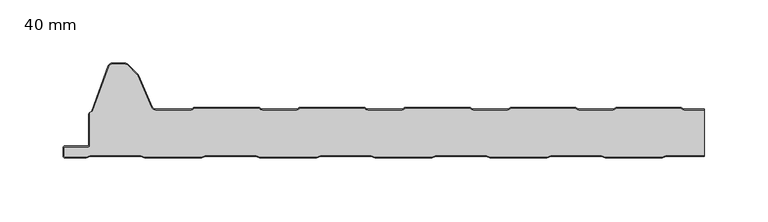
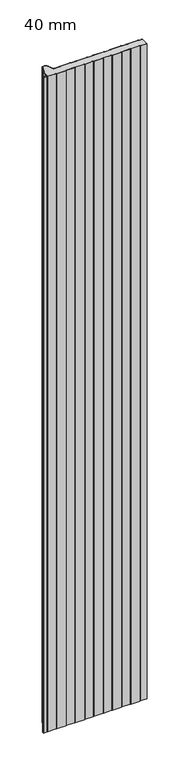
"""IFC4 building model written with IfcOpenShell, lengths in millimetres: plate geometry, HIANSA PANEL - H20.F01.004-PANELES DE CUBIERTA SIN TAPAJUNTA - EASY CUB 3GR - Panel de Muro Cortina : 40 mm."""

from ifc_helpers import new_model, si_unit, point, frame_2d, origin, origin_with_axes, place, context, project, spatial, polyline, circle_curve, trimmed, segment, composite_curve, outline, extrude, source, transform, mapped, element, save


def plate_40_mm_dbaeaa5f(model_context):
    return source(origin(), model_context, "Body", "SweptSolid", [
        extrude(outline(polyline([(-236.0046623, 15.4267187), (-236.479984, 16.25), (-236.479984, 34.6399643), (-236.0046623, 35.4632456), (-236.0046623, 15.4267187)])), origin_with_axes(), (0.0, 0.0, 1.0), 3390.8509027),
        extrude(outline(composite_curve([segment(trimmed(circle_curve(frame_2d((-236.9813919, 9.7640482)), 0.998858), [point((-235.982535, 9.7655207))], [point((-236.9813919, 8.7651902))], False, "CARTESIAN"), True, "CONTINUOUS"), segment(polyline([(-236.9813919, 8.7651902), (-255.4768579, 8.7651905)]), True, "CONTINUOUS"), segment(trimmed(circle_curve(frame_2d((-255.4798401, 8.2649415)), 0.5002578), [point((-255.4768579, 8.7651905))], [point((-255.9800979, 8.2649415))], True, "CARTESIAN"), True, "CONTINUOUS"), segment(polyline([(-255.9800979, 8.2649415), (-255.9800979, 1.0000206)]), True, "CONTINUOUS"), segment(trimmed(circle_curve(frame_2d((-255.4800361, 1.0000206)), 0.5000618), [point((-255.9800979, 1.0000206))], [point((-255.4800361, 0.4999588))], True, "CARTESIAN"), True, "CONTINUOUS"), segment(polyline([(-255.4800361, 0.4999588), (-238.321247, 0.4999588), (-235.3211235, 1.5), (-195.1588459, 1.5), (-192.1588459, 0.5), (-147.3211235, 0.5), (-144.3211235, 1.5), (-104.1588459, 1.5), (-101.1588459, 0.5), (-56.3211235, 0.5), (-53.3211235, 1.5), (-13.1588459, 1.5), (-10.1588459, 0.5), (34.6788765, 0.5), (37.6788765, 1.5), (77.8411541, 1.5), (80.8411541, 0.5), (125.6788765, 0.5), (128.6788765, 1.5), (168.8411541, 1.5), (171.8411541, 0.5), (216.6788765, 0.5), (219.6788765, 1.5), (249.9999998, 1.5), (249.9999998, 1.0), (219.7600153, 1.0), (216.7600153, 0.0), (171.7600153, 0.0), (168.7600153, 1.0), (128.7600153, 1.0), (125.7600153, 0.0), (80.7600153, 0.0), (77.7600153, 1.0), (37.7600153, 1.0), (34.7600153, 0.0), (-10.2399847, 0.0), (-13.2399847, 1.0), (-53.2399847, 1.0), (-56.2399847, 0.0), (-101.2399847, 0.0), (-104.2399847, 1.0), (-144.2399847, 1.0), (-147.2399847, 0.0), (-192.2399847, 0.0), (-195.2399847, 1.0), (-235.2399847, 1.0), (-238.2399847, 0.0), (-255.4799847, 0.0)]), True, "CONTINUOUS"), segment(trimmed(circle_curve(frame_2d((-255.4799847, 1.0)), 1.0), [point((-255.4799847, 0.0))], [point((-256.4799847, 1.0))], False, "CARTESIAN"), True, "CONTINUOUS"), segment(polyline([(-256.4799847, 1.0), (-256.4799847, 8.262651)]), True, "CONTINUOUS"), segment(trimmed(circle_curve(frame_2d((-255.4799847, 8.262651)), 1.0), [point((-256.4799847, 8.262651))], [point((-255.4799847, 9.262651))], False, "CARTESIAN"), True, "CONTINUOUS"), segment(polyline([(-255.4799847, 9.262651), (-236.9830391, 9.262651)]), True, "CONTINUOUS"), segment(trimmed(circle_curve(frame_2d((-236.979984, 9.7626416)), 0.5), [point((-236.9830391, 9.262651))], [point((-236.479984, 9.7626416))], True, "CARTESIAN"), True, "CONTINUOUS"), segment(polyline([(-236.479984, 9.7626416), (-236.479984, 16.25), (-235.982535, 15.388393), (-235.982535, 9.7655207)]), True, "CONTINUOUS")], self_intersect=False)), origin_with_axes(), (0.0, 0.0, 1.0), 3390.8509027),
        extrude(outline(composite_curve([segment(polyline([(-234.1370886, 36.794297), (-220.9862023, 72.9260604)]), True, "CONTINUOUS"), segment(trimmed(circle_curve(frame_2d((-218.1671244, 71.9)), 3.0), [point((-220.9862023, 72.9260604))], [point((-218.1671244, 74.9))], False, "CARTESIAN"), True, "CONTINUOUS"), segment(polyline([(-218.1671244, 74.9), (-208.1823564, 74.9)]), True, "CONTINUOUS"), segment(trimmed(circle_curve(frame_2d((-208.1823564, 69.9)), 5.0), [point((-208.1823564, 74.9))], [point((-204.6468225, 73.4355339))], False, "CARTESIAN"), True, "CONTINUOUS"), segment(polyline([(-204.6468225, 73.4355339), (-197.9600416, 66.7487529)]), True, "CONTINUOUS"), segment(trimmed(circle_curve(frame_2d((-201.4955755, 63.213219)), 5.0), [point((-197.9600416, 66.7487529))], [point((-196.9079185, 65.2015359))], False, "CARTESIAN"), True, "CONTINUOUS"), segment(polyline([(-196.9079185, 65.2015359), (-186.1184879, 40.3070099)]), True, "CONTINUOUS"), segment(trimmed(circle_curve(frame_2d((-183.3658937, 41.5)), 3.0), [point((-186.1184879, 40.3070099))], [point((-183.3658937, 38.5))], True, "CARTESIAN"), True, "CONTINUOUS"), segment(polyline([(-183.3658937, 38.5), (-155.5009808, 38.5)]), True, "CONTINUOUS"), segment(trimmed(circle_curve(frame_2d((-155.5009808, 40.5)), 2.0), [point((-155.5009808, 38.5))], [point((-154.270989, 38.9229394))], True, "CARTESIAN"), True, "CONTINUOUS"), segment(polyline([(-154.270989, 38.9229394), (-153.6196411, 39.5404749)]), True, "CONTINUOUS"), segment(trimmed(circle_curve(frame_2d((-152.3441266, 38.0)), 2.0), [point((-153.6196411, 39.5404749))], [point((-152.3441266, 40.0))], False, "CARTESIAN"), True, "CONTINUOUS"), segment(polyline([(-152.3441266, 40.0), (-102.3428932, 40.0)]), True, "CONTINUOUS"), segment(trimmed(circle_curve(frame_2d((-102.3428932, 38.0)), 2.0), [point((-102.3428932, 40.0))], [point((-101.0673787, 39.5404749))], False, "CARTESIAN"), True, "CONTINUOUS"), segment(polyline([(-101.0673787, 39.5404749), (-100.4160308, 38.9229394)]), True, "CONTINUOUS"), segment(trimmed(circle_curve(frame_2d((-99.1860389, 40.5)), 2.0), [point((-100.4160308, 38.9229394))], [point((-99.1860389, 38.5))], True, "CARTESIAN"), True, "CONTINUOUS"), segment(polyline([(-99.1860389, 38.5), (-72.1676475, 38.5)]), True, "CONTINUOUS"), segment(trimmed(circle_curve(frame_2d((-72.1676475, 40.5)), 2.0), [point((-72.1676475, 38.5))], [point((-70.9376556, 38.9229394))], True, "CARTESIAN"), True, "CONTINUOUS"), segment(polyline([(-70.9376556, 38.9229394), (-70.2863077, 39.5404749)]), True, "CONTINUOUS"), segment(trimmed(circle_curve(frame_2d((-69.0107932, 38.0)), 2.0), [point((-70.2863077, 39.5404749))], [point((-69.0107932, 40.0))], False, "CARTESIAN"), True, "CONTINUOUS"), segment(polyline([(-69.0107932, 40.0), (-19.0095599, 40.0)]), True, "CONTINUOUS"), segment(trimmed(circle_curve(frame_2d((-19.0095599, 38.0)), 2.0), [point((-19.0095599, 40.0))], [point((-17.7340454, 39.5404749))], False, "CARTESIAN"), True, "CONTINUOUS"), segment(polyline([(-17.7340454, 39.5404749), (-17.0826975, 38.9229394)]), True, "CONTINUOUS"), segment(trimmed(circle_curve(frame_2d((-15.8527056, 40.5)), 2.0), [point((-17.0826975, 38.9229394))], [point((-15.8527056, 38.5))], True, "CARTESIAN"), True, "CONTINUOUS"), segment(polyline([(-15.8527056, 38.5), (11.1656858, 38.5)]), True, "CONTINUOUS"), segment(trimmed(circle_curve(frame_2d((11.1656858, 40.5)), 2.0), [point((11.1656858, 38.5))], [point((12.3956777, 38.9229394))], True, "CARTESIAN"), True, "CONTINUOUS"), segment(polyline([(12.3956777, 38.9229394), (13.0470256, 39.5404749)]), True, "CONTINUOUS"), segment(trimmed(circle_curve(frame_2d((14.3225401, 38.0)), 2.0), [point((13.0470256, 39.5404749))], [point((14.3225401, 40.0))], False, "CARTESIAN"), True, "CONTINUOUS"), segment(polyline([(14.3225401, 40.0), (64.3237735, 40.0)]), True, "CONTINUOUS"), segment(trimmed(circle_curve(frame_2d((64.3237735, 38.0)), 2.0), [point((64.3237735, 40.0))], [point((65.5992879, 39.5404749))], False, "CARTESIAN"), True, "CONTINUOUS"), segment(polyline([(65.5992879, 39.5404749), (66.2506359, 38.9229394)]), True, "CONTINUOUS"), segment(trimmed(circle_curve(frame_2d((67.4806277, 40.5)), 2.0), [point((66.2506359, 38.9229394))], [point((67.4806277, 38.5))], True, "CARTESIAN"), True, "CONTINUOUS"), segment(polyline([(67.4806277, 38.5), (94.4990192, 38.5)]), True, "CONTINUOUS"), segment(trimmed(circle_curve(frame_2d((94.4990192, 40.5)), 2.0), [point((94.4990192, 38.5))], [point((95.729011, 38.9229394))], True, "CARTESIAN"), True, "CONTINUOUS"), segment(polyline([(95.729011, 38.9229394), (96.3803589, 39.5404749)]), True, "CONTINUOUS"), segment(trimmed(circle_curve(frame_2d((97.6558734, 38.0)), 2.0), [point((96.3803589, 39.5404749))], [point((97.6558734, 40.0))], False, "CARTESIAN"), True, "CONTINUOUS"), segment(polyline([(97.6558734, 40.0), (147.6571068, 40.0)]), True, "CONTINUOUS"), segment(trimmed(circle_curve(frame_2d((147.6571068, 38.0)), 2.0), [point((147.6571068, 40.0))], [point((148.9326213, 39.5404749))], False, "CARTESIAN"), True, "CONTINUOUS"), segment(polyline([(148.9326213, 39.5404749), (149.5839692, 38.9229394)]), True, "CONTINUOUS"), segment(trimmed(circle_curve(frame_2d((150.8139611, 40.5)), 2.0), [point((149.5839692, 38.9229394))], [point((150.8139611, 38.5))], True, "CARTESIAN"), True, "CONTINUOUS"), segment(polyline([(150.8139611, 38.5), (177.8323525, 38.5)]), True, "CONTINUOUS"), segment(trimmed(circle_curve(frame_2d((177.8323525, 40.5)), 2.0), [point((177.8323525, 38.5))], [point((179.0623444, 38.9229394))], True, "CARTESIAN"), True, "CONTINUOUS"), segment(polyline([(179.0623444, 38.9229394), (179.7136923, 39.5404749)]), True, "CONTINUOUS"), segment(trimmed(circle_curve(frame_2d((180.9892068, 38.0)), 2.0), [point((179.7136923, 39.5404749))], [point((180.9892068, 40.0))], False, "CARTESIAN"), True, "CONTINUOUS"), segment(polyline([(180.9892068, 40.0), (230.9904401, 40.0)]), True, "CONTINUOUS"), segment(trimmed(circle_curve(frame_2d((230.9904401, 38.0)), 2.0), [point((230.9904401, 40.0))], [point((232.2659546, 39.5404749))], False, "CARTESIAN"), True, "CONTINUOUS"), segment(polyline([(232.2659546, 39.5404749), (232.9173025, 38.9229394)]), True, "CONTINUOUS"), segment(trimmed(circle_curve(frame_2d((234.1472944, 40.5)), 2.0), [point((232.9173025, 38.9229394))], [point((234.1472944, 38.5))], True, "CARTESIAN"), True, "CONTINUOUS"), segment(polyline([(234.1472944, 38.5), (249.9999998, 38.5), (249.9999998, 38.0), (234.1472944, 38.0)]), True, "CONTINUOUS"), segment(trimmed(circle_curve(frame_2d((234.1472944, 40.5)), 2.5), [point((234.1472944, 38.0))], [point((232.5898138, 38.54443))], False, "CARTESIAN"), True, "CONTINUOUS"), segment(polyline([(232.5898138, 38.54443), (231.9350126, 39.1652394)]), True, "CONTINUOUS"), segment(trimmed(circle_curve(frame_2d((230.9904401, 38.0)), 1.5), [point((231.9350126, 39.1652394))], [point((230.9904401, 39.5))], True, "CARTESIAN"), True, "CONTINUOUS"), segment(polyline([(230.9904401, 39.5), (180.9892068, 39.5)]), True, "CONTINUOUS"), segment(trimmed(circle_curve(frame_2d((180.9892068, 38.0)), 1.5), [point((180.9892068, 39.5))], [point((180.0446343, 39.1652394))], True, "CARTESIAN"), True, "CONTINUOUS"), segment(polyline([(180.0446343, 39.1652394), (179.3898331, 38.54443)]), True, "CONTINUOUS"), segment(trimmed(circle_curve(frame_2d((177.8323525, 40.5)), 2.5), [point((179.3898331, 38.54443))], [point((177.8323525, 38.0))], False, "CARTESIAN"), True, "CONTINUOUS"), segment(polyline([(177.8323525, 38.0), (150.8139611, 38.0)]), True, "CONTINUOUS"), segment(trimmed(circle_curve(frame_2d((150.8139611, 40.5)), 2.5), [point((150.8139611, 38.0))], [point((149.2564804, 38.54443))], False, "CARTESIAN"), True, "CONTINUOUS"), segment(polyline([(149.2564804, 38.54443), (148.6016792, 39.1652394)]), True, "CONTINUOUS"), segment(trimmed(circle_curve(frame_2d((147.6571068, 38.0)), 1.5), [point((148.6016792, 39.1652394))], [point((147.6571068, 39.5))], True, "CARTESIAN"), True, "CONTINUOUS"), segment(polyline([(147.6571068, 39.5), (97.6558734, 39.5)]), True, "CONTINUOUS"), segment(trimmed(circle_curve(frame_2d((97.6558734, 38.0)), 1.5), [point((97.6558734, 39.5))], [point((96.711301, 39.1652394))], True, "CARTESIAN"), True, "CONTINUOUS"), segment(polyline([(96.711301, 39.1652394), (96.0564998, 38.54443)]), True, "CONTINUOUS"), segment(trimmed(circle_curve(frame_2d((94.4990192, 40.5)), 2.5), [point((96.0564998, 38.54443))], [point((94.4990192, 38.0))], False, "CARTESIAN"), True, "CONTINUOUS"), segment(polyline([(94.4990192, 38.0), (67.4806277, 38.0)]), True, "CONTINUOUS"), segment(trimmed(circle_curve(frame_2d((67.4806277, 40.5)), 2.5), [point((67.4806277, 38.0))], [point((65.9231471, 38.54443))], False, "CARTESIAN"), True, "CONTINUOUS"), segment(polyline([(65.9231471, 38.54443), (65.2683459, 39.1652394)]), True, "CONTINUOUS"), segment(trimmed(circle_curve(frame_2d((64.3237735, 38.0)), 1.5), [point((65.2683459, 39.1652394))], [point((64.3237735, 39.5))], True, "CARTESIAN"), True, "CONTINUOUS"), segment(polyline([(64.3237735, 39.5), (14.3225401, 39.5)]), True, "CONTINUOUS"), segment(trimmed(circle_curve(frame_2d((14.3225401, 38.0)), 1.5), [point((14.3225401, 39.5))], [point((13.3779676, 39.1652394))], True, "CARTESIAN"), True, "CONTINUOUS"), segment(polyline([(13.3779676, 39.1652394), (12.7231664, 38.54443)]), True, "CONTINUOUS"), segment(trimmed(circle_curve(frame_2d((11.1656858, 40.5)), 2.5), [point((12.7231664, 38.54443))], [point((11.1656858, 38.0))], False, "CARTESIAN"), True, "CONTINUOUS"), segment(polyline([(11.1656858, 38.0), (-15.8527056, 38.0)]), True, "CONTINUOUS"), segment(trimmed(circle_curve(frame_2d((-15.8527056, 40.5)), 2.5), [point((-15.8527056, 38.0))], [point((-17.4101862, 38.54443))], False, "CARTESIAN"), True, "CONTINUOUS"), segment(polyline([(-17.4101862, 38.54443), (-18.0649874, 39.1652394)]), True, "CONTINUOUS"), segment(trimmed(circle_curve(frame_2d((-19.0095599, 38.0)), 1.5), [point((-18.0649874, 39.1652394))], [point((-19.0095599, 39.5))], True, "CARTESIAN"), True, "CONTINUOUS"), segment(polyline([(-19.0095599, 39.5), (-69.0107932, 39.5)]), True, "CONTINUOUS"), segment(trimmed(circle_curve(frame_2d((-69.0107932, 38.0)), 1.5), [point((-69.0107932, 39.5))], [point((-69.9553657, 39.1652394))], True, "CARTESIAN"), True, "CONTINUOUS"), segment(polyline([(-69.9553657, 39.1652394), (-70.6101669, 38.54443)]), True, "CONTINUOUS"), segment(trimmed(circle_curve(frame_2d((-72.1676475, 40.5)), 2.5), [point((-70.6101669, 38.54443))], [point((-72.1676475, 38.0))], False, "CARTESIAN"), True, "CONTINUOUS"), segment(polyline([(-72.1676475, 38.0), (-99.1860389, 38.0)]), True, "CONTINUOUS"), segment(trimmed(circle_curve(frame_2d((-99.1860389, 40.5)), 2.5), [point((-99.1860389, 38.0))], [point((-100.7435196, 38.54443))], False, "CARTESIAN"), True, "CONTINUOUS"), segment(polyline([(-100.7435196, 38.54443), (-101.3983208, 39.1652394)]), True, "CONTINUOUS"), segment(trimmed(circle_curve(frame_2d((-102.3428932, 38.0)), 1.5), [point((-101.3983208, 39.1652394))], [point((-102.3428932, 39.5))], True, "CARTESIAN"), True, "CONTINUOUS"), segment(polyline([(-102.3428932, 39.5), (-152.3441266, 39.5)]), True, "CONTINUOUS"), segment(trimmed(circle_curve(frame_2d((-152.3441266, 38.0)), 1.5), [point((-152.3441266, 39.5))], [point((-153.288699, 39.1652394))], True, "CARTESIAN"), True, "CONTINUOUS"), segment(polyline([(-153.288699, 39.1652394), (-153.9435002, 38.54443)]), True, "CONTINUOUS"), segment(trimmed(circle_curve(frame_2d((-155.5009808, 40.5)), 2.5), [point((-153.9435002, 38.54443))], [point((-155.5009808, 38.0))], False, "CARTESIAN"), True, "CONTINUOUS"), segment(polyline([(-155.5009808, 38.0), (-183.3658937, 38.0)]), True, "CONTINUOUS"), segment(trimmed(circle_curve(frame_2d((-183.3658937, 41.5)), 3.5), [point((-183.3658937, 38.0))], [point((-186.5772536, 40.1081782))], False, "CARTESIAN"), True, "CONTINUOUS"), segment(polyline([(-186.5772536, 40.1081782), (-197.3666842, 65.0027042)]), True, "CONTINUOUS"), segment(trimmed(circle_curve(frame_2d((-201.4955755, 63.213219)), 4.5), [point((-197.3666842, 65.0027042))], [point((-198.3135949, 66.3951995))], True, "CARTESIAN"), True, "CONTINUOUS"), segment(polyline([(-198.3135949, 66.3951995), (-205.0003759, 73.0819805)]), True, "CONTINUOUS"), segment(trimmed(circle_curve(frame_2d((-208.1823564, 69.9)), 4.5), [point((-205.0003759, 73.0819805))], [point((-208.1823564, 74.4))], True, "CARTESIAN"), True, "CONTINUOUS"), segment(polyline([(-208.1823564, 74.4), (-218.1671244, 74.4)]), True, "CONTINUOUS"), segment(trimmed(circle_curve(frame_2d((-218.1671244, 71.9)), 2.5), [point((-218.1671244, 74.4))], [point((-220.516356, 72.7550504))], True, "CARTESIAN"), True, "CONTINUOUS"), segment(polyline([(-220.516356, 72.7550504), (-233.4445023, 37.2352601), (-234.1370886, 36.794297)]), True, "CONTINUOUS")], self_intersect=False)), origin_with_axes(), (0.0, 0.0, 1.0), 3390.8509027),
        extrude(outline(composite_curve([segment(polyline([(-236.0046623, 35.4632456), (-234.1370886, 36.894297), (-233.3059851, 37.4234527), (-220.4223867, 72.8208483)]), True, "CONTINUOUS"), segment(trimmed(circle_curve(frame_2d((-218.1671244, 72.0)), 2.4), [point((-220.4223867, 72.8208483))], [point((-218.1671244, 74.4))], False, "CARTESIAN"), True, "CONTINUOUS"), segment(polyline([(-218.1671244, 74.4), (-208.1823564, 74.4)]), True, "CONTINUOUS"), segment(trimmed(circle_curve(frame_2d((-208.1823564, 70.0)), 4.4), [point((-208.1823564, 74.4))], [point((-205.0710866, 73.1112698))], False, "CARTESIAN"), True, "CONTINUOUS"), segment(polyline([(-205.0710866, 73.1112698), (-198.3843056, 66.4244889)]), True, "CONTINUOUS"), segment(trimmed(circle_curve(frame_2d((-201.4955755, 63.313219)), 4.4), [point((-198.3843056, 66.4244889))], [point((-197.4584374, 65.0629379))], False, "CARTESIAN"), True, "CONTINUOUS"), segment(polyline([(-197.4584374, 65.0629379), (-186.6690067, 40.1684119)]), True, "CONTINUOUS"), segment(trimmed(circle_curve(frame_2d((-183.3658937, 41.6)), 3.6), [point((-186.6690067, 40.1684119))], [point((-183.3658937, 38.0))], True, "CARTESIAN"), True, "CONTINUOUS"), segment(polyline([(-183.3658937, 38.0), (-155.5009808, 38.0)]), True, "CONTINUOUS"), segment(trimmed(circle_curve(frame_2d((-155.5009808, 40.6)), 2.6), [point((-155.5009808, 38.0))], [point((-153.9019914, 38.5498213))], True, "CARTESIAN"), True, "CONTINUOUS"), segment(polyline([(-153.9019914, 38.5498213), (-153.2369867, 39.1783324)]), True, "CONTINUOUS"), segment(trimmed(circle_curve(frame_2d((-152.3441266, 38.1)), 1.4), [point((-153.2369867, 39.1783324))], [point((-152.3441266, 39.5))], False, "CARTESIAN"), True, "CONTINUOUS"), segment(polyline([(-152.3441266, 39.5), (-102.3428932, 39.5)]), True, "CONTINUOUS"), segment(trimmed(circle_curve(frame_2d((-102.3428932, 38.1)), 1.4), [point((-102.3428932, 39.5))], [point((-101.4500331, 39.1783324))], False, "CARTESIAN"), True, "CONTINUOUS"), segment(polyline([(-101.4500331, 39.1783324), (-100.7850284, 38.5498213)]), True, "CONTINUOUS"), segment(trimmed(circle_curve(frame_2d((-99.1860389, 40.6)), 2.6), [point((-100.7850284, 38.5498213))], [point((-99.1860389, 38.0))], True, "CARTESIAN"), True, "CONTINUOUS"), segment(polyline([(-99.1860389, 38.0), (-72.1676475, 38.0)]), True, "CONTINUOUS"), segment(trimmed(circle_curve(frame_2d((-72.1676475, 40.6)), 2.6), [point((-72.1676475, 38.0))], [point((-70.5686581, 38.5498213))], True, "CARTESIAN"), True, "CONTINUOUS"), segment(polyline([(-70.5686581, 38.5498213), (-69.9036534, 39.1783324)]), True, "CONTINUOUS"), segment(trimmed(circle_curve(frame_2d((-69.0107932, 38.1)), 1.4), [point((-69.9036534, 39.1783324))], [point((-69.0107932, 39.5))], False, "CARTESIAN"), True, "CONTINUOUS"), segment(polyline([(-69.0107932, 39.5), (-19.0095599, 39.5)]), True, "CONTINUOUS"), segment(trimmed(circle_curve(frame_2d((-19.0095599, 38.1)), 1.4), [point((-19.0095599, 39.5))], [point((-18.1166997, 39.1783324))], False, "CARTESIAN"), True, "CONTINUOUS"), segment(polyline([(-18.1166997, 39.1783324), (-17.451695, 38.5498213)]), True, "CONTINUOUS"), segment(trimmed(circle_curve(frame_2d((-15.8527056, 40.6)), 2.6), [point((-17.451695, 38.5498213))], [point((-15.8527056, 38.0))], True, "CARTESIAN"), True, "CONTINUOUS"), segment(polyline([(-15.8527056, 38.0), (11.1656858, 38.0)]), True, "CONTINUOUS"), segment(trimmed(circle_curve(frame_2d((11.1656858, 40.6)), 2.6), [point((11.1656858, 38.0))], [point((12.7646752, 38.5498213))], True, "CARTESIAN"), True, "CONTINUOUS"), segment(polyline([(12.7646752, 38.5498213), (13.4296799, 39.1783324)]), True, "CONTINUOUS"), segment(trimmed(circle_curve(frame_2d((14.3225401, 38.1)), 1.4), [point((13.4296799, 39.1783324))], [point((14.3225401, 39.5))], False, "CARTESIAN"), True, "CONTINUOUS"), segment(polyline([(14.3225401, 39.5), (64.3237735, 39.5)]), True, "CONTINUOUS"), segment(trimmed(circle_curve(frame_2d((64.3237735, 38.1)), 1.4), [point((64.3237735, 39.5))], [point((65.2166336, 39.1783324))], False, "CARTESIAN"), True, "CONTINUOUS"), segment(polyline([(65.2166336, 39.1783324), (65.8816383, 38.5498213)]), True, "CONTINUOUS"), segment(trimmed(circle_curve(frame_2d((67.4806277, 40.6)), 2.6), [point((65.8816383, 38.5498213))], [point((67.4806277, 38.0))], True, "CARTESIAN"), True, "CONTINUOUS"), segment(polyline([(67.4806277, 38.0), (94.4990192, 38.0)]), True, "CONTINUOUS"), segment(trimmed(circle_curve(frame_2d((94.4990192, 40.6)), 2.6), [point((94.4990192, 38.0))], [point((96.0980086, 38.5498213))], True, "CARTESIAN"), True, "CONTINUOUS"), segment(polyline([(96.0980086, 38.5498213), (96.7630133, 39.1783324)]), True, "CONTINUOUS"), segment(trimmed(circle_curve(frame_2d((97.6558734, 38.1)), 1.4), [point((96.7630133, 39.1783324))], [point((97.6558734, 39.5))], False, "CARTESIAN"), True, "CONTINUOUS"), segment(polyline([(97.6558734, 39.5), (147.6571068, 39.5)]), True, "CONTINUOUS"), segment(trimmed(circle_curve(frame_2d((147.6571068, 38.1)), 1.4), [point((147.6571068, 39.5))], [point((148.5499669, 39.1783324))], False, "CARTESIAN"), True, "CONTINUOUS"), segment(polyline([(148.5499669, 39.1783324), (149.2149716, 38.5498213)]), True, "CONTINUOUS"), segment(trimmed(circle_curve(frame_2d((150.8139611, 40.6)), 2.6), [point((149.2149716, 38.5498213))], [point((150.8139611, 38.0))], True, "CARTESIAN"), True, "CONTINUOUS"), segment(polyline([(150.8139611, 38.0), (177.8323525, 38.0)]), True, "CONTINUOUS"), segment(trimmed(circle_curve(frame_2d((177.8323525, 40.6)), 2.6), [point((177.8323525, 38.0))], [point((179.4313419, 38.5498213))], True, "CARTESIAN"), True, "CONTINUOUS"), segment(polyline([(179.4313419, 38.5498213), (180.0963466, 39.1783324)]), True, "CONTINUOUS"), segment(trimmed(circle_curve(frame_2d((180.9892068, 38.1)), 1.4), [point((180.0963466, 39.1783324))], [point((180.9892068, 39.5))], False, "CARTESIAN"), True, "CONTINUOUS"), segment(polyline([(180.9892068, 39.5), (230.9904401, 39.5)]), True, "CONTINUOUS"), segment(trimmed(circle_curve(frame_2d((230.9904401, 38.1)), 1.4), [point((230.9904401, 39.5))], [point((231.8833003, 39.1783324))], False, "CARTESIAN"), True, "CONTINUOUS"), segment(polyline([(231.8833003, 39.1783324), (232.548305, 38.5498213)]), True, "CONTINUOUS"), segment(trimmed(circle_curve(frame_2d((234.1472944, 40.6)), 2.6), [point((232.548305, 38.5498213))], [point((234.1472944, 38.0))], True, "CARTESIAN"), True, "CONTINUOUS"), segment(polyline([(234.1472944, 38.0), (249.9999998, 38.0), (249.9999998, 1.4999588), (219.6588613, 1.4999588), (216.6588613, 0.4999588), (171.821139, 0.4999588), (168.821139, 1.4999588), (128.6588613, 1.4999588), (125.6588613, 0.4999588), (80.821139, 0.4999588), (77.821139, 1.4999588), (37.6588613, 1.4999588), (34.6588613, 0.4999588), (-10.178861, 0.4999588), (-13.178861, 1.4999588), (-53.3411387, 1.4999588), (-56.3411387, 0.4999588), (-101.178861, 0.4999588), (-104.178861, 1.4999588), (-144.3411387, 1.4999588), (-147.3411387, 0.4999588), (-192.178861, 0.4999588), (-195.1789845, 1.5), (-235.3411387, 1.5), (-238.3412622, 0.4999588), (-255.5000513, 0.4999588)]), True, "CONTINUOUS"), segment(trimmed(circle_curve(frame_2d((-255.5000513, 1.0000206)), 0.5000618), [point((-255.5000513, 0.4999588))], [point((-256.0001131, 1.0000206))], False, "CARTESIAN"), True, "CONTINUOUS"), segment(polyline([(-256.0001131, 1.0000206), (-256.0001131, 8.2649415)]), True, "CONTINUOUS"), segment(trimmed(circle_curve(frame_2d((-255.4998553, 8.2649415)), 0.5002578), [point((-256.0001131, 8.2649415))], [point((-255.4968731, 8.7651905))], False, "CARTESIAN"), True, "CONTINUOUS"), segment(polyline([(-255.4968731, 8.7651905), (-237.0014071, 8.7651905)]), True, "CONTINUOUS"), segment(trimmed(circle_curve(frame_2d((-237.0014071, 9.7640482)), 0.9988578), [point((-237.0014071, 8.7651905))], [point((-236.0046623, 9.8289851))], True, "CARTESIAN"), True, "CONTINUOUS"), segment(polyline([(-236.0046623, 9.8289851), (-236.0046623, 35.4632456)]), True, "CONTINUOUS")], self_intersect=False)), origin_with_axes(), (0.0, 0.0, 1.0), 3390.8509027),
    ])


if __name__ == "__main__":
    model = new_model("IFC4")
    model_context = context("Model", 3, world=origin())
    ifc_project = project(units=[si_unit("LENGTHUNIT", "METRE", prefix="MILLI")], contexts=[model_context])
    site = spatial("IfcSite", under=ifc_project)
    building = spatial("IfcBuilding", under=site)
    placement = place(None, origin())
    plate_40_mm_shape = plate_40_mm_dbaeaa5f(model_context)
    element("IfcPlate", 1, ObjectType="HIANSA PANEL - H20.F01.004-PANELES DE CUBIERTA SIN TAPAJUNTA - EASY CUB 3GR - Panel de Muro Cortina : 40 mm", at=placement, inside=building, context=model_context, shape_type="MappedRepresentation", body=[
        mapped(plate_40_mm_shape, transform((0.0, 0.0, 0.0), x_axis=(1.0, 0.0, 0.0), y_axis=(0.0, 1.0, 0.0), z_axis=(0.0, 0.0, 1.0))),
    ])
    save(model, "model.ifc")
